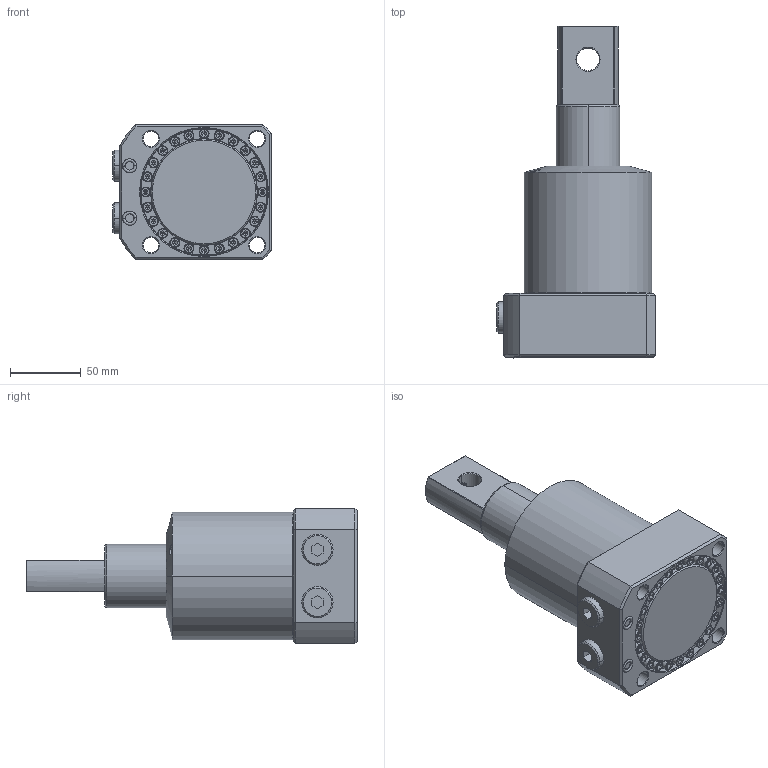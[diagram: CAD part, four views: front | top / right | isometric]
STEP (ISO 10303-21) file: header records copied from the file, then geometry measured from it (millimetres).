
FILE_DESCRIPTION((''),'2;1');
FILE_NAME('SIMP__GENERIC_SWING_CYD_90_PIN_ASM','2023-04-16T16:03:57',('Design 2'),(''),'CREO PARAMETRIC BY PTC INC, 2020053','CREO PARAMETRIC BY PTC INC, 2020053','');
FILE_SCHEMA(('CONFIG_CONTROL_DESIGN'));
Length unit declared in the file: millimetre
Products named in the file (13): BODY___; BODY_TOP_FLG____ASM; PIN_PISTON___HUZ; PISTON_ASM____ASM; SWINGER_ARM___; SWINGER_ARM_ASM____ASM; G-3-8_CLOSE_PLUG____; STATIC-O-RING-10X2SSS___; 1________; 2________; HALDER_SEALING-PLUG-228JSDBU__ASM; ISHCS04X12__; SIMP__GENERIC_SWING_CYD_90_PIN_ASM
Assembly tree (37 placements, depth 3):
  SIMP__GENERIC_SWING_CYD_90_PIN_ASM
    BODY_TOP_FLG____ASM
      BODY___
    PISTON_ASM____ASM
      PIN_PISTON___HUZ
    SWINGER_ARM_ASM____ASM
      SWINGER_ARM___
    G-3-8_CLOSE_PLUG____  x2
    STATIC-O-RING-10X2SSS___  x2
    HALDER_SEALING-PLUG-228JSDBU__ASM
      1________
      2________
    ISHCS04X12__  x24
Bounding box: 112 x 234.25 x 95 mm (x, y, z)
Volume: 1035507.4 mm3; surface area: 146945.5 mm2
Topology: 33 solids, 33 shells, 1329 faces, 2875 edges, 1642 vertices
Faces by surface type: plane 452, cylinder 421, cone 372, torus 62, bspline 19, sphere 3
Entity records: 19010 total; most frequent: CARTESIAN_POINT 5919, DIRECTION 2879, ORIENTED_EDGE 2484, EDGE_CURVE 1242, AXIS2_PLACEMENT_3D 1157, VERTEX_POINT 731, EDGE_LOOP 663, VECTOR 565
